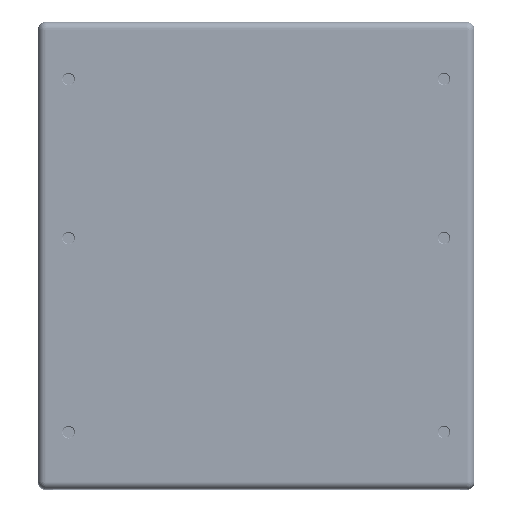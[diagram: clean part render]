
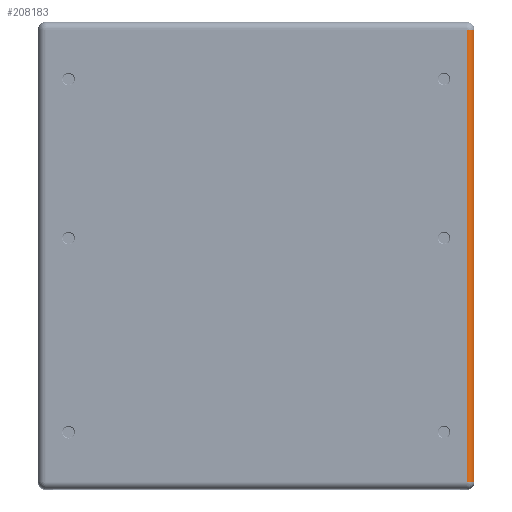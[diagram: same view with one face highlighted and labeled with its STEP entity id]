
A CAD part, top view. The second image highlights one B-rep face of the part: STEP entity #208183.
In plain terms, the highlighted cylindrical face has radius 12.7 mm (diameter 25.4 mm), a partial arc.
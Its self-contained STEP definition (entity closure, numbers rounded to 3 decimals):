
#391 = EDGE_LOOP ( 'NONE', ( #200513, #220123, #53786, #81534, #225427 ) ) ;
#1743 = VERTEX_POINT ( 'NONE', #5390 ) ;
#5390 = CARTESIAN_POINT ( 'NONE',  ( 790.45, 24.939, 2556.072 ) ) ;
#10984 = EDGE_CURVE ( 'NONE', #28075, #147184, #232115, .T. ) ;
#15151 = CARTESIAN_POINT ( 'NONE',  ( 790.45, 761.549, 2556.072 ) ) ;
#19275 = AXIS2_PLACEMENT_3D ( 'NONE', #256387, #108184, #234103 ) ;
#28075 = VERTEX_POINT ( 'NONE', #274788 ) ;
#28694 = CARTESIAN_POINT ( 'NONE',  ( 777.766, 24.939, 2568.137 ) ) ;
#37950 = CYLINDRICAL_SURFACE ( 'NONE', #19275, 12.7 ) ;
#50384 = LINE ( 'NONE', #193968, #304367 ) ;
#53786 = ORIENTED_EDGE ( 'NONE', *, *, #10984, .T. ) ;
#56708 = DIRECTION ( 'NONE',  ( 0., 1., 0. ) ) ;
#58769 = FACE_OUTER_BOUND ( 'NONE', #391, .T. ) ;
#62403 = CIRCLE ( 'NONE', #138762, 12.7 ) ;
#68175 = EDGE_CURVE ( 'NONE', #152574, #155750, #70299, .T. ) ;
#70299 = LINE ( 'NONE', #121324, #154523 ) ;
#81534 = ORIENTED_EDGE ( 'NONE', *, *, #291734, .F. ) ;
#94864 = CARTESIAN_POINT ( 'NONE',  ( 777.766, 761.554, 2568.137 ) ) ;
#108184 = DIRECTION ( 'NONE',  ( 0., -1., 0. ) ) ;
#121324 = CARTESIAN_POINT ( 'NONE',  ( 777.766, 583.739, 2568.137 ) ) ;
#131292 = DIRECTION ( 'NONE',  ( 0.999, 0., 0.05 ) ) ;
#133324 = CARTESIAN_POINT ( 'NONE',  ( 790.45, 761.554, 2556.072 ) ) ;
#138762 = AXIS2_PLACEMENT_3D ( 'NONE', #300539, #56708, #155629 ) ;
#147184 = VERTEX_POINT ( 'NONE', #133324 ) ;
#152574 = VERTEX_POINT ( 'NONE', #94864 ) ;
#154523 = VECTOR ( 'NONE', #220151, 1000. ) ;
#155629 = DIRECTION ( 'NONE',  ( 0.999, 0., 0.05 ) ) ;
#155750 = VERTEX_POINT ( 'NONE', #28694 ) ;
#162932 = CIRCLE ( 'NONE', #213672, 12.7 ) ;
#193968 = CARTESIAN_POINT ( 'NONE',  ( 790.45, 583.739, 2556.072 ) ) ;
#200513 = ORIENTED_EDGE ( 'NONE', *, *, #279055, .F. ) ;
#208183 = ADVANCED_FACE ( 'NONE', ( #58769 ), #37950, .T. ) ;
#213672 = AXIS2_PLACEMENT_3D ( 'NONE', #286849, #262963, #131292 ) ;
#215950 = CARTESIAN_POINT ( 'NONE',  ( 790.45, 761.544, 2556.072 ) ) ;
#217886 = DIRECTION ( 'NONE',  ( 0., 1., 0. ) ) ;
#220123 = ORIENTED_EDGE ( 'NONE', *, *, #276278, .T. ) ;
#220151 = DIRECTION ( 'NONE',  ( 0., -1., 0. ) ) ;
#225427 = ORIENTED_EDGE ( 'NONE', *, *, #68175, .T. ) ;
#232115 = B_SPLINE_CURVE_WITH_KNOTS ( 'NONE', 3,
 ( #282944, #215950, #15151, #313084 ),
 .UNSPECIFIED., .F., .F.,
 ( 4, 4 ),
 ( 0., 0. ),
 .UNSPECIFIED. ) ;
#234103 = DIRECTION ( 'NONE',  ( 0.999, 0., 0.05 ) ) ;
#256387 = CARTESIAN_POINT ( 'NONE',  ( 777.766, 583.739, 2555.437 ) ) ;
#262963 = DIRECTION ( 'NONE',  ( 0., -1., 0. ) ) ;
#274788 = CARTESIAN_POINT ( 'NONE',  ( 790.45, 761.539, 2556.072 ) ) ;
#276278 = EDGE_CURVE ( 'NONE', #1743, #28075, #50384, .T. ) ;
#279055 = EDGE_CURVE ( 'NONE', #1743, #155750, #162932, .T. ) ;
#282944 = CARTESIAN_POINT ( 'NONE',  ( 790.45, 761.539, 2556.072 ) ) ;
#286849 = CARTESIAN_POINT ( 'NONE',  ( 777.766, 24.939, 2555.437 ) ) ;
#291734 = EDGE_CURVE ( 'NONE', #152574, #147184, #62403, .T. ) ;
#300539 = CARTESIAN_POINT ( 'NONE',  ( 777.766, 761.554, 2555.437 ) ) ;
#304367 = VECTOR ( 'NONE', #217886, 1000. ) ;
#313084 = CARTESIAN_POINT ( 'NONE',  ( 790.45, 761.554, 2556.072 ) ) ;
